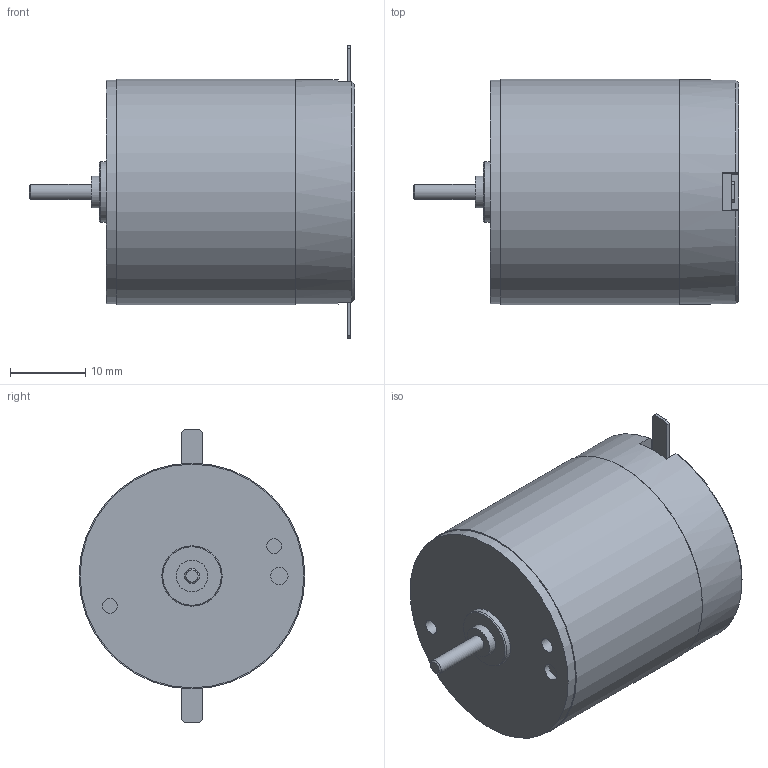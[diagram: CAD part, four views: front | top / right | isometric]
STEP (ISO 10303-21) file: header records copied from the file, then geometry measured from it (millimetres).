
FILE_DESCRIPTION(('Bauteilbeschreibung','HiCAD-Model','HiCAD-STEP-TRANSLATION','Bauteilbeschreibung'),'2;1');
FILE_NAME('C:/1-STEP-DATEI/05_090.STP','2005-02-02T14:38:17+00:00',('Konstrukteur'),('Konstrukteur Firma GmbH'),'HiCAD2 V1102 STEP 20.9.2001','HiCAD2 V1102','confidential');
FILE_SCHEMA(('AUTOMOTIVE_DESIGN { 1 2 10303 214 0 1 1 1 }'));
Length unit declared in the file: millimetre
Products named in the file (2): MOTOR; MOTOR0
Assembly tree (1 placements, depth 2):
  MOTOR
    MOTOR0
Bounding box: 43.2 x 30 x 39 mm (x, y, z)
Volume: 23132.6 mm3; surface area: 4916.4 mm2
Topology: 1 solids, 1 shells, 71 faces, 169 edges, 112 vertices
Faces by surface type: plane 50, cylinder 17, cone 4
Full cylindrical faces by diameter (mm): 2 x3, 2.3 x1, 4.2 x1, 8 x1, 29.7 x1, 29.8 x1, 30 x1
Entity records: 3336 total; most frequent: CARTESIAN_POINT 349, DIRECTION 336, ORIENTED_EDGE 306, COLOUR_RGB 225, PRESENTATION_STYLE_ASSIGNMENT 225, OVER_RIDING_STYLED_ITEM 224, CURVE_STYLE 153, DRAUGHTING_PRE_DEFINED_CURVE_FONT 153
